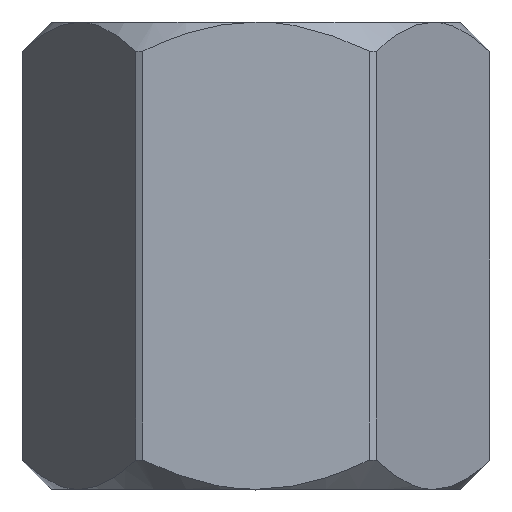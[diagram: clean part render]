
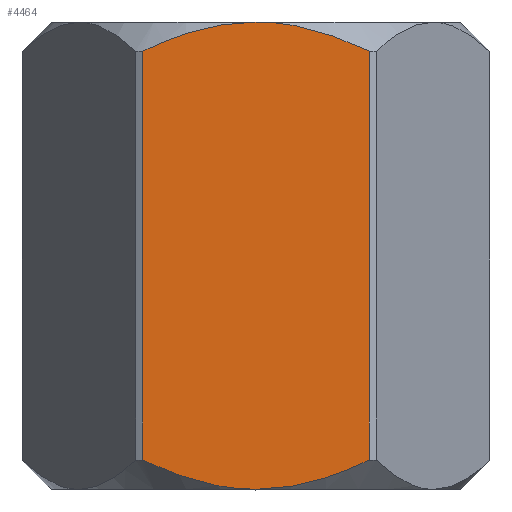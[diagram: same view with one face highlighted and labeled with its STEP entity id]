
A CAD part, top view. The second image highlights one B-rep face of the part: STEP entity #4464.
In plain terms, the highlighted planar face has unit normal (0, 0, 1).
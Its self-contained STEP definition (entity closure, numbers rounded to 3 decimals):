
#38 = ORIENTED_EDGE ( 'NONE', *, *, #170, .T. ) ;
#108 = CARTESIAN_POINT ( 'NONE',  ( -1.936, 0.5, 3.5 ) ) ;
#170 = EDGE_CURVE ( 'NONE', #3543, #3169, #387, .T. ) ;
#218 = CARTESIAN_POINT ( 'NONE',  ( 1.786, 0.427, 3.5 ) ) ;
#387 = B_SPLINE_CURVE_WITH_KNOTS ( 'NONE', 3,
 ( #5248, #1834, #2730, #5191, #3123, #2696, #218, #5231 ),
 .UNSPECIFIED., .F., .F.,
 ( 4, 2, 2, 4 ),
 ( 0.005, 0.006, 0.006, 0.007 ),
 .UNSPECIFIED. ) ;
#493 = CARTESIAN_POINT ( 'NONE',  ( -1.318, 0.227, 3.5 ) ) ;
#547 = CARTESIAN_POINT ( 'NONE',  ( 0., 8., 3.5 ) ) ;
#601 = CARTESIAN_POINT ( 'NONE',  ( 1.157, 7.817, 3.5 ) ) ;
#619 = CARTESIAN_POINT ( 'NONE',  ( -1.936, 7.5, 3.5 ) ) ;
#677 = EDGE_CURVE ( 'NONE', #4739, #3543, #2073, .T. ) ;
#863 = CARTESIAN_POINT ( 'NONE',  ( -1.936, 0.5, 3.5 ) ) ;
#872 = EDGE_LOOP ( 'NONE', ( #4022, #1152, #4901, #1184, #2674, #38 ) ) ;
#898 = CARTESIAN_POINT ( 'NONE',  ( -0.34, 0., 3.5 ) ) ;
#1020 = CARTESIAN_POINT ( 'NONE',  ( 1.786, 7.573, 3.5 ) ) ;
#1073 = B_SPLINE_CURVE_WITH_KNOTS ( 'NONE', 3,
 ( #5153, #1020, #3095, #2233, #601, #2253, #5203, #547 ),
 .UNSPECIFIED., .F., .F.,
 ( 4, 2, 2, 4 ),
 ( 0.002, 0.003, 0.003, 0.004 ),
 .UNSPECIFIED. ) ;
#1152 = ORIENTED_EDGE ( 'NONE', *, *, #2033, .T. ) ;
#1184 = ORIENTED_EDGE ( 'NONE', *, *, #4262, .T. ) ;
#1196 = AXIS2_PLACEMENT_3D ( 'NONE', #1300, #1797, #4274 ) ;
#1283 = CARTESIAN_POINT ( 'NONE',  ( -0.672, 0.05, 3.5 ) ) ;
#1300 = CARTESIAN_POINT ( 'NONE',  ( 0., 8., 3.5 ) ) ;
#1500 = CARTESIAN_POINT ( 'NONE',  ( -1.318, 7.773, 3.5 ) ) ;
#1596 = VECTOR ( 'NONE', #2198, 1000. ) ;
#1643 = CARTESIAN_POINT ( 'NONE',  ( -1.936, 7.5, 3.5 ) ) ;
#1688 = CARTESIAN_POINT ( 'NONE',  ( -1.936, 8., 3.5 ) ) ;
#1752 = VECTOR ( 'NONE', #3789, 1000. ) ;
#1797 = DIRECTION ( 'NONE',  ( 0., 0., -1. ) ) ;
#1834 = CARTESIAN_POINT ( 'NONE',  ( 0.34, 0., 3.5 ) ) ;
#2033 = EDGE_CURVE ( 'NONE', #2898, #5162, #1073, .T. ) ;
#2073 = B_SPLINE_CURVE_WITH_KNOTS ( 'NONE', 3,
 ( #863, #5026, #493, #1283, #898, #2088 ),
 .UNSPECIFIED., .F., .F.,
 ( 4, 2, 4 ),
 ( 0.003, 0.004, 0.005 ),
 .UNSPECIFIED. ) ;
#2088 = CARTESIAN_POINT ( 'NONE',  ( 0., 0., 3.5 ) ) ;
#2112 = CARTESIAN_POINT ( 'NONE',  ( 0., 8., 3.5 ) ) ;
#2198 = DIRECTION ( 'NONE',  ( 0., -1., 0. ) ) ;
#2233 = CARTESIAN_POINT ( 'NONE',  ( 1.318, 7.763, 3.5 ) ) ;
#2253 = CARTESIAN_POINT ( 'NONE',  ( 0.671, 7.95, 3.5 ) ) ;
#2415 = LINE ( 'NONE', #1688, #1752 ) ;
#2644 = EDGE_CURVE ( 'NONE', #5162, #2878, #4391, .T. ) ;
#2674 = ORIENTED_EDGE ( 'NONE', *, *, #677, .T. ) ;
#2696 = CARTESIAN_POINT ( 'NONE',  ( 1.633, 0.359, 3.5 ) ) ;
#2730 = CARTESIAN_POINT ( 'NONE',  ( 0.671, 0.05, 3.5 ) ) ;
#2731 = CARTESIAN_POINT ( 'NONE',  ( 0., 0., 3.5 ) ) ;
#2878 = VERTEX_POINT ( 'NONE', #1643 ) ;
#2898 = VERTEX_POINT ( 'NONE', #5001 ) ;
#2942 = PLANE ( 'NONE',  #1196 ) ;
#3095 = CARTESIAN_POINT ( 'NONE',  ( 1.633, 7.641, 3.5 ) ) ;
#3123 = CARTESIAN_POINT ( 'NONE',  ( 1.318, 0.237, 3.5 ) ) ;
#3160 = EDGE_CURVE ( 'NONE', #2898, #3169, #5010, .T. ) ;
#3169 = VERTEX_POINT ( 'NONE', #5057 ) ;
#3543 = VERTEX_POINT ( 'NONE', #2731 ) ;
#3789 = DIRECTION ( 'NONE',  ( 0., -1., 0. ) ) ;
#4012 = CARTESIAN_POINT ( 'NONE',  ( -0.672, 7.95, 3.5 ) ) ;
#4022 = ORIENTED_EDGE ( 'NONE', *, *, #3160, .F. ) ;
#4262 = EDGE_CURVE ( 'NONE', #2878, #4739, #2415, .T. ) ;
#4274 = DIRECTION ( 'NONE',  ( -1., 0., 0. ) ) ;
#4391 = B_SPLINE_CURVE_WITH_KNOTS ( 'NONE', 3,
 ( #5258, #5244, #4012, #1500, #5285, #619 ),
 .UNSPECIFIED., .F., .F.,
 ( 4, 2, 4 ),
 ( 0.004, 0.005, 0.006 ),
 .UNSPECIFIED. ) ;
#4464 = ADVANCED_FACE ( 'NONE', ( #5229 ), #2942, .F. ) ;
#4739 = VERTEX_POINT ( 'NONE', #108 ) ;
#4901 = ORIENTED_EDGE ( 'NONE', *, *, #2644, .T. ) ;
#5001 = CARTESIAN_POINT ( 'NONE',  ( 1.936, 7.5, 3.5 ) ) ;
#5010 = LINE ( 'NONE', #5027, #1596 ) ;
#5026 = CARTESIAN_POINT ( 'NONE',  ( -1.635, 0.354, 3.5 ) ) ;
#5027 = CARTESIAN_POINT ( 'NONE',  ( 1.936, 8., 3.5 ) ) ;
#5057 = CARTESIAN_POINT ( 'NONE',  ( 1.936, 0.5, 3.5 ) ) ;
#5153 = CARTESIAN_POINT ( 'NONE',  ( 1.936, 7.5, 3.5 ) ) ;
#5162 = VERTEX_POINT ( 'NONE', #2112 ) ;
#5191 = CARTESIAN_POINT ( 'NONE',  ( 1.157, 0.183, 3.5 ) ) ;
#5203 = CARTESIAN_POINT ( 'NONE',  ( 0.34, 8., 3.5 ) ) ;
#5229 = FACE_OUTER_BOUND ( 'NONE', #872, .T. ) ;
#5231 = CARTESIAN_POINT ( 'NONE',  ( 1.936, 0.5, 3.5 ) ) ;
#5244 = CARTESIAN_POINT ( 'NONE',  ( -0.34, 8., 3.5 ) ) ;
#5248 = CARTESIAN_POINT ( 'NONE',  ( 0., 0., 3.5 ) ) ;
#5258 = CARTESIAN_POINT ( 'NONE',  ( 0., 8., 3.5 ) ) ;
#5285 = CARTESIAN_POINT ( 'NONE',  ( -1.635, 7.646, 3.5 ) ) ;
